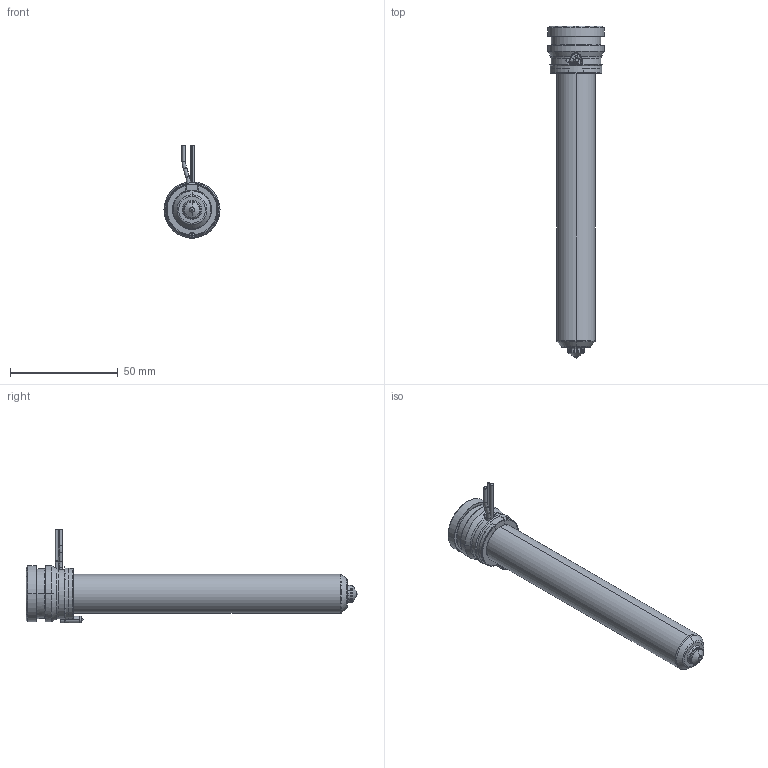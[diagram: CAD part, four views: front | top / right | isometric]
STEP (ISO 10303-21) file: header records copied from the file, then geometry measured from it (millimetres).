
FILE_DESCRIPTION((''),'2;1');
FILE_NAME('MPN-08-24-TS8-136-A','2026-02-05T11:53:13',('UPTIO'),('Thermoplay S.p.A.'),'CREO PARAMETRIC BY PTC INC, 2023494','CREO PARAMETRIC BY PTC INC, 2023494','');
FILE_SCHEMA(('CONFIG_CONTROL_DESIGN','SHAPE_APPEARANCE_LAYERS_GROUPS'));
Length unit declared in the file: millimetre
Products named in the file (1): MPN-08-24-TS8-136-A
Bounding box: 26 x 154 x 43.5 mm (x, y, z)
Volume: 29521.4 mm3; surface area: 38000.7 mm2
Topology: 2 solids, 5 shells, 548 faces, 1437 edges, 892 vertices
Faces by surface type: cylinder 178, plane 146, bspline 82, torus 64, cone 60, sphere 12, extrusion 6
Entity records: 29746 total; most frequent: CARTESIAN_POINT 13573, ORIENTED_EDGE 2854, DIRECTION 2539, EDGE_CURVE 1427, AXIS2_PLACEMENT_3D 992, VERTEX_POINT 892, EDGE_LOOP 575, VECTOR 555
